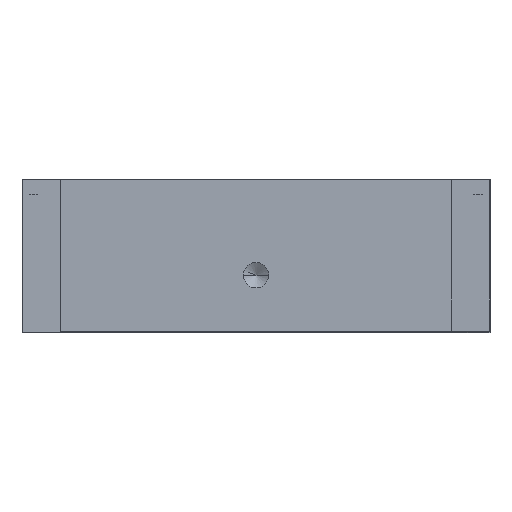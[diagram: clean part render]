
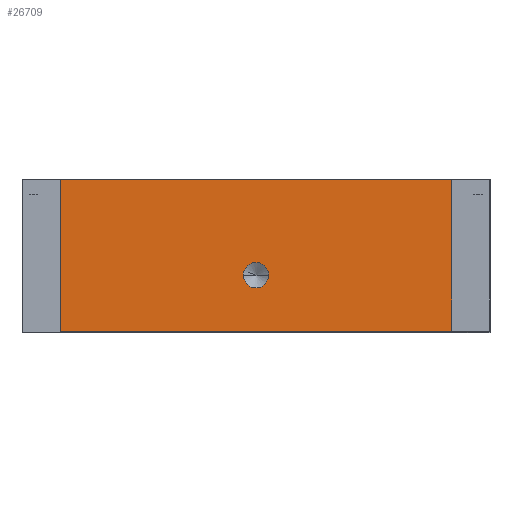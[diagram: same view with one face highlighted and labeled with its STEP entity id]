
A CAD part, front view. The second image highlights one B-rep face of the part: STEP entity #26709.
In plain terms, the highlighted planar face has unit normal (0, -1, 0) as drawn and (-1, 0, 0) by its records, which use the part's own axes.
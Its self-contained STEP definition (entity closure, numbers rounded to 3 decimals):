
#894 = DIRECTION ( 'NONE',  ( -1., 0., 0. ) ) ;
#897 = DIRECTION ( 'NONE',  ( 0., 0., 1. ) ) ;
#1428 = DIRECTION ( 'NONE',  ( 0., -1., 0. ) ) ;
#1657 = CARTESIAN_POINT ( 'NONE',  ( 0., 0., -51. ) ) ;
#2468 = LINE ( 'NONE', #17165, #28229 ) ;
#2718 = CARTESIAN_POINT ( 'NONE',  ( 0., 12.5, -27.15 ) ) ;
#3065 = DIRECTION ( 'NONE',  ( 0., -1., 0. ) ) ;
#3271 = EDGE_CURVE ( 'NONE', #27694, #20804, #31517, .T. ) ;
#3981 = DIRECTION ( 'NONE',  ( 0., 0., 1. ) ) ;
#4786 = ORIENTED_EDGE ( 'NONE', *, *, #30474, .F. ) ;
#5316 = DIRECTION ( 'NONE',  ( 0., 0., -1. ) ) ;
#5785 = CARTESIAN_POINT ( 'NONE',  ( 0., 19.8, 0. ) ) ;
#5893 = PLANE ( 'NONE',  #10909 ) ;
#6018 = CARTESIAN_POINT ( 'NONE',  ( 0., 12.5, -25.5 ) ) ;
#6113 = FACE_OUTER_BOUND ( 'NONE', #24586, .T. ) ;
#6266 = VERTEX_POINT ( 'NONE', #1657 ) ;
#8398 = DIRECTION ( 'NONE',  ( 0., 0., 1. ) ) ;
#8515 = DIRECTION ( 'NONE',  ( 0., 0., 1. ) ) ;
#9001 = ORIENTED_EDGE ( 'NONE', *, *, #15651, .T. ) ;
#10909 = AXIS2_PLACEMENT_3D ( 'NONE', #18375, #894, #8398 ) ;
#13911 = CARTESIAN_POINT ( 'NONE',  ( 0., 19.8, -51. ) ) ;
#15406 = VECTOR ( 'NONE', #1428, 1000. ) ;
#15651 = EDGE_CURVE ( 'NONE', #6266, #26786, #2468, .T. ) ;
#15844 = DIRECTION ( 'NONE',  ( -1., 0., 0. ) ) ;
#15877 = ORIENTED_EDGE ( 'NONE', *, *, #3271, .F. ) ;
#16192 = LINE ( 'NONE', #16379, #15406 ) ;
#16379 = CARTESIAN_POINT ( 'NONE',  ( 0., 0., 0. ) ) ;
#16699 = AXIS2_PLACEMENT_3D ( 'NONE', #30799, #15844, #897 ) ;
#17165 = CARTESIAN_POINT ( 'NONE',  ( 0., 0., -51. ) ) ;
#17233 = EDGE_LOOP ( 'NONE', ( #15877, #24610 ) ) ;
#17403 = LINE ( 'NONE', #20427, #24800 ) ;
#18045 = CARTESIAN_POINT ( 'NONE',  ( 0., 0., -51. ) ) ;
#18375 = CARTESIAN_POINT ( 'NONE',  ( 0., 0., -51. ) ) ;
#19426 = FACE_BOUND ( 'NONE', #17233, .T. ) ;
#19852 = VECTOR ( 'NONE', #3065, 1000. ) ;
#19959 = CIRCLE ( 'NONE', #16699, 1.65 ) ;
#20427 = CARTESIAN_POINT ( 'NONE',  ( 0., 19.8, -51. ) ) ;
#20623 = LINE ( 'NONE', #18045, #19852 ) ;
#20804 = VERTEX_POINT ( 'NONE', #2718 ) ;
#22171 = VERTEX_POINT ( 'NONE', #5785 ) ;
#22654 = EDGE_CURVE ( 'NONE', #20804, #27694, #19959, .T. ) ;
#23127 = ORIENTED_EDGE ( 'NONE', *, *, #31385, .T. ) ;
#23495 = DIRECTION ( 'NONE',  ( -1., 0., 0. ) ) ;
#24586 = EDGE_LOOP ( 'NONE', ( #4786, #23127, #25529, #9001 ) ) ;
#24610 = ORIENTED_EDGE ( 'NONE', *, *, #22654, .F. ) ;
#24800 = VECTOR ( 'NONE', #5316, 1000. ) ;
#25529 = ORIENTED_EDGE ( 'NONE', *, *, #26143, .T. ) ;
#26143 = EDGE_CURVE ( 'NONE', #30255, #6266, #20623, .T. ) ;
#26709 = ADVANCED_FACE ( 'NONE', ( #19426, #6113 ), #5893, .T. ) ;
#26786 = VERTEX_POINT ( 'NONE', #31019 ) ;
#27694 = VERTEX_POINT ( 'NONE', #28244 ) ;
#27792 = AXIS2_PLACEMENT_3D ( 'NONE', #6018, #23495, #8515 ) ;
#28229 = VECTOR ( 'NONE', #3981, 1000. ) ;
#28244 = CARTESIAN_POINT ( 'NONE',  ( 0., 12.5, -23.85 ) ) ;
#30255 = VERTEX_POINT ( 'NONE', #13911 ) ;
#30474 = EDGE_CURVE ( 'NONE', #22171, #26786, #16192, .T. ) ;
#30799 = CARTESIAN_POINT ( 'NONE',  ( 0., 12.5, -25.5 ) ) ;
#31019 = CARTESIAN_POINT ( 'NONE',  ( 0., 0., 0. ) ) ;
#31385 = EDGE_CURVE ( 'NONE', #22171, #30255, #17403, .T. ) ;
#31517 = CIRCLE ( 'NONE', #27792, 1.65 ) ;
